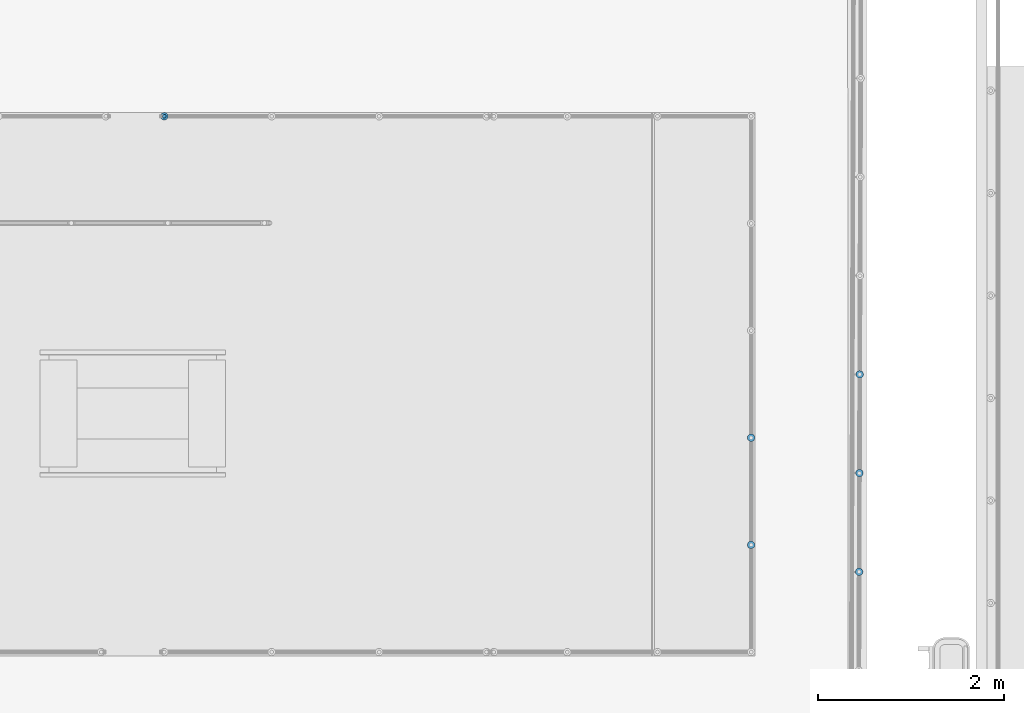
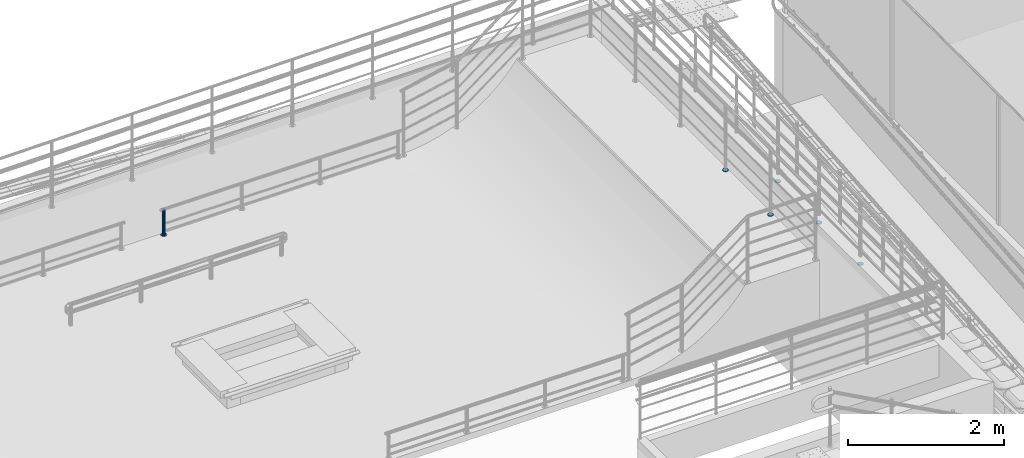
# One storey, part 114 of 237: 7 building element parts, 3 elements without a shape of their own.
"""IFC2X3 building model written with IfcOpenShell, lengths in millimetres."""

from ifc_helpers import new_model, entity, si_unit, converted_unit, derived_unit, money_unit, direction, frame, origin_with_axes, place, context, subcontext, project, spatial, faceted_brep, material, type_object, element, aggregate, save


model = new_model("IFC2X3")

# Units and contexts
model_context = context("Model", 3, precision=0.01, world=origin_with_axes(), true_north=direction((0.0, 1.0)))
body_context = subcontext(model_context, "Body", "Model", "MODEL_VIEW")
ifc_project = project(units=[si_unit("LENGTHUNIT", "METRE", prefix="MILLI"), si_unit("AREAUNIT", "SQUARE_METRE"), si_unit("VOLUMEUNIT", "CUBIC_METRE"), converted_unit("PLANEANGLEUNIT", "DEGREE", entity("IfcPlaneAngleMeasure", 0.0174532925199), si_unit("PLANEANGLEUNIT", "RADIAN"), dimensions=[0, 0, 0, 0, 0, 0, 0]), money_unit("USD"), converted_unit("TIMEUNIT", "Year", entity("IfcTimeMeasure", 31556926.0), si_unit("TIMEUNIT", "SECOND"), dimensions=[0, 0, 1, 0, 0, 0, 0]), si_unit("MASSUNIT", "GRAM", prefix="KILO"), si_unit("THERMODYNAMICTEMPERATUREUNIT", "DEGREE_CELSIUS"), si_unit("LUMINOUSINTENSITYUNIT", "LUMEN"), si_unit("ENERGYUNIT", "JOULE", prefix="MEGA"), derived_unit("THERMALCONDUCTANCEUNIT", [(si_unit("POWERUNIT", "WATT"), 1), (si_unit("LENGTHUNIT", "METRE"), -1), (si_unit("THERMODYNAMICTEMPERATUREUNIT", "KELVIN"), -1)]), derived_unit("SPECIFICHEATCAPACITYUNIT", [(si_unit("ENERGYUNIT", "JOULE"), 1), (si_unit("MASSUNIT", "GRAM", prefix="KILO"), -1), (si_unit("THERMODYNAMICTEMPERATUREUNIT", "KELVIN"), -1)]), derived_unit("MASSDENSITYUNIT", [(si_unit("MASSUNIT", "GRAM", prefix="KILO"), 1), (si_unit("VOLUMEUNIT", "CUBIC_METRE"), -1)])], contexts=[model_context])

# Site, building, storey
site_placement = place(None, origin_with_axes())
site = spatial("IfcSite", under=ifc_project, at=site_placement, Name="Local", CompositionType="ELEMENT")
building_placement = place(site_placement, origin_with_axes())
building = spatial("IfcBuilding", under=site, at=building_placement, Name="Construção", CompositionType="ELEMENT")
storey_placement = place(building_placement, origin_with_axes())
storey = spatial("IfcBuildingStorey", under=building, at=storey_placement, Name="Pavimento Térreo", CompositionType="ELEMENT", Elevation=0.0)

# Railing, building element parts
railing_type = type_object("IfcRailingType", Name="Tipo de Guarda-Corpo", PredefinedType="NOTDEFINED")
railing_1_placement = place(storey_placement, frame((70326.6870103, 28675.2458388, -1357.10819655), z_axis=(0.0, 0.0, 1.0), x_axis=(1.0, 0.0, 0.0)))
railing_1 = element("IfcRailing", 1, at=railing_1_placement, inside=storey, type_object=railing_type, Name="Guarda-Corpo - 004", PredefinedType="NOTDEFINED")
ifc_material_1 = material(Name="Alumínio")
building_element_part_1_placement = place(railing_1_placement, origin_with_axes())
building_element_part_1 = element("IfcBuildingElementPart", 2, at=building_element_part_1_placement, material=ifc_material_1, Name="Alumínio", context=body_context, shape_type="Brep", body=[
    faceted_brep([(-4740.85705578, 313.486317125, 0.0), (-4747.80477129, 312.899427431, 0.0), (-4747.80477129, 312.899427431, 5.0), (-4740.85705578, 313.486317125, 5.0), (-4733.91297935, 312.857832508, 0.0), (-4727.18353425, 311.033069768, 0.0), (-4720.87319127, 308.067473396, 0.0), (-4715.17368699, 304.051151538, 0.0), (-4710.25819795, 299.1061381, 0.0), (-4706.27607881, 293.382684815, 0.0), (-4703.34832424, 287.054695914, 0.0), (-4701.56389258, 280.314444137, 0.0), (-4700.97700289, 273.366728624, 0.0), (-4701.6054875, 266.422652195, 0.0), (-4703.43025024, 259.693207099, 0.0), (-4706.39584662, 253.382864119, 0.0), (-4710.41216847, 247.683359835, 0.0), (-4715.35718191, 242.767870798, 0.0), (-4721.0806352, 238.785751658, 0.0), (-4727.4086241, 235.857997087, 0.0), (-4734.14887587, 234.073565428, 0.0), (-4741.09659139, 233.486675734, 0.0), (-4748.04066782, 234.115160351, 0.0), (-4754.77011291, 235.939923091, 0.0), (-4761.08045589, 238.905519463, 0.0), (-4766.77996018, 242.921841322, 0.0), (-4771.69544921, 247.866854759, 0.0), (-4775.67756835, 253.590308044, 0.0), (-4778.60532292, 259.918296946, 0.0), (-4780.38975458, 266.658548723, 0.0), (-4780.97664428, 273.606264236, 0.0), (-4780.34815966, 280.550340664, 0.0), (-4778.52339692, 287.27978576, 0.0), (-4775.55780055, 293.59012874, 0.0), (-4771.54147869, 299.289633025, 0.0), (-4766.59646525, 304.205122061, 0.0), (-4760.87301197, 308.187241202, 0.0), (-4754.54502307, 311.114995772, 0.0), (-4754.54502307, 311.114995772, 5.0), (-4760.87301197, 308.187241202, 5.0), (-4766.59646525, 304.205122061, 5.0), (-4771.54147869, 299.289633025, 5.0), (-4775.55780055, 293.59012874, 5.0), (-4778.52339692, 287.27978576, 5.0), (-4780.34815966, 280.550340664, 5.0), (-4780.97664428, 273.606264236, 5.0), (-4780.38975458, 266.658548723, 5.0), (-4778.60532292, 259.918296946, 5.0), (-4775.67756835, 253.590308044, 5.0), (-4771.69544921, 247.866854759, 5.0), (-4766.77996018, 242.921841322, 5.0), (-4761.08045589, 238.905519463, 5.0), (-4754.77011291, 235.939923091, 5.0), (-4748.04066782, 234.115160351, 5.0), (-4741.09659139, 233.486675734, 5.0), (-4734.14887587, 234.073565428, 5.0), (-4727.4086241, 235.857997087, 5.0), (-4721.0806352, 238.785751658, 5.0), (-4715.35718191, 242.767870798, 5.0), (-4710.41216847, 247.683359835, 5.0), (-4706.39584662, 253.382864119, 5.0), (-4703.43025024, 259.693207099, 5.0), (-4701.6054875, 266.422652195, 5.0), (-4700.97700289, 273.366728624, 5.0), (-4701.56389258, 280.314444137, 5.0), (-4703.34832424, 287.054695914, 5.0), (-4706.27607881, 293.382684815, 5.0), (-4710.25819795, 299.1061381, 5.0), (-4715.17368699, 304.051151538, 5.0), (-4720.87319127, 308.067473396, 5.0), (-4727.18353425, 311.033069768, 5.0), (-4733.91297935, 312.857832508, 5.0)], [[[0, 1, 2, 3]], [[0, 4, 5, 6, 7, 8, 9, 10, 11, 12, 13, 14, 15, 16, 17, 18, 19, 20, 21, 22, 23, 24, 25, 26, 27, 28, 29, 30, 31, 32, 33, 34, 35, 36, 37, 1]], [[1, 37, 38, 2]], [[3, 2, 38, 39, 40, 41, 42, 43, 44, 45, 46, 47, 48, 49, 50, 51, 52, 53, 54, 55, 56, 57, 58, 59, 60, 61, 62, 63, 64, 65, 66, 67, 68, 69, 70, 71]], [[4, 0, 3, 71]], [[5, 4, 71, 70]], [[6, 5, 70, 69]], [[7, 6, 69, 68]], [[8, 7, 68, 67]], [[9, 8, 67, 66]], [[10, 9, 66, 65]], [[11, 10, 65, 64]], [[12, 11, 64, 63]], [[13, 12, 63, 62]], [[14, 13, 62, 61]], [[15, 14, 61, 60]], [[16, 15, 60, 59]], [[17, 16, 59, 58]], [[18, 17, 58, 57]], [[19, 18, 57, 56]], [[20, 19, 56, 55]], [[21, 20, 55, 54]], [[22, 21, 54, 53]], [[23, 22, 53, 52]], [[24, 23, 52, 51]], [[25, 24, 51, 50]], [[26, 25, 50, 49]], [[27, 26, 49, 48]], [[28, 27, 48, 47]], [[29, 28, 47, 46]], [[30, 29, 46, 45]], [[31, 30, 45, 44]], [[32, 31, 44, 43]], [[33, 32, 43, 42]], [[34, 33, 42, 41]], [[35, 34, 41, 40]], [[36, 35, 40, 39]], [[37, 36, 39, 38]]]),
])
building_element_part_2_placement = place(railing_1_placement, origin_with_axes())
building_element_part_2 = element("IfcBuildingElementPart", 3, at=building_element_part_2_placement, material=ifc_material_1, Name="Alumínio", context=body_context, shape_type="Brep", body=[
    faceted_brep([(-4737.67395442, 1376.57236701, 0.0), (-4744.62166993, 1375.98547732, 0.0), (-4744.62166993, 1375.98547732, 5.0), (-4737.67395442, 1376.57236701, 5.0), (-4730.72987799, 1375.9438824, 0.0), (-4724.00043289, 1374.11911966, 0.0), (-4717.69008991, 1371.15352328, 0.0), (-4711.99058563, 1367.13720143, 0.0), (-4707.07509659, 1362.19218799, 0.0), (-4703.09297745, 1356.4687347, 0.0), (-4700.16522288, 1350.1407458, 0.0), (-4698.38079122, 1343.40049402, 0.0), (-4697.79390153, 1336.45277851, 0.0), (-4698.42238614, 1329.50870208, 0.0), (-4700.24714888, 1322.77925699, 0.0), (-4703.21274526, 1316.46891401, 0.0), (-4707.22906711, 1310.76940972, 0.0), (-4712.17408055, 1305.85392069, 0.0), (-4717.89753384, 1301.87180155, 0.0), (-4724.22552274, 1298.94404697, 0.0), (-4730.96577451, 1297.15961532, 0.0), (-4737.91349003, 1296.57272562, 0.0), (-4744.85756646, 1297.20121024, 0.0), (-4751.58701155, 1299.02597298, 0.0), (-4757.89735453, 1301.99156935, 0.0), (-4763.59685882, 1306.00789121, 0.0), (-4768.51234785, 1310.95290465, 0.0), (-4772.49446699, 1316.67635793, 0.0), (-4775.42222156, 1323.00434683, 0.0), (-4777.20665322, 1329.74459861, 0.0), (-4777.79354292, 1336.69231412, 0.0), (-4777.1650583, 1343.63639055, 0.0), (-4775.34029556, 1350.36583565, 0.0), (-4772.37469919, 1356.67617863, 0.0), (-4768.35837733, 1362.37568291, 0.0), (-4763.41336389, 1367.29117195, 0.0), (-4757.68991061, 1371.27329109, 0.0), (-4751.36192171, 1374.20104566, 0.0), (-4751.36192171, 1374.20104566, 5.0), (-4757.68991061, 1371.27329109, 5.0), (-4763.41336389, 1367.29117195, 5.0), (-4768.35837733, 1362.37568291, 5.0), (-4772.37469919, 1356.67617863, 5.0), (-4775.34029556, 1350.36583565, 5.0), (-4777.1650583, 1343.63639055, 5.0), (-4777.79354292, 1336.69231412, 5.0), (-4777.20665322, 1329.74459861, 5.0), (-4775.42222156, 1323.00434683, 5.0), (-4772.49446699, 1316.67635793, 5.0), (-4768.51234785, 1310.95290465, 5.0), (-4763.59685882, 1306.00789121, 5.0), (-4757.89735453, 1301.99156935, 5.0), (-4751.58701155, 1299.02597298, 5.0), (-4744.85756646, 1297.20121024, 5.0), (-4737.91349003, 1296.57272562, 5.0), (-4730.96577451, 1297.15961532, 5.0), (-4724.22552274, 1298.94404697, 5.0), (-4717.89753384, 1301.87180155, 5.0), (-4712.17408055, 1305.85392069, 5.0), (-4707.22906711, 1310.76940972, 5.0), (-4703.21274526, 1316.46891401, 5.0), (-4700.24714888, 1322.77925699, 5.0), (-4698.42238614, 1329.50870208, 5.0), (-4697.79390153, 1336.45277851, 5.0), (-4698.38079122, 1343.40049402, 5.0), (-4700.16522288, 1350.1407458, 5.0), (-4703.09297745, 1356.4687347, 5.0), (-4707.07509659, 1362.19218799, 5.0), (-4711.99058563, 1367.13720143, 5.0), (-4717.69008991, 1371.15352328, 5.0), (-4724.00043289, 1374.11911966, 5.0), (-4730.72987799, 1375.9438824, 5.0)], [[[0, 1, 2, 3]], [[0, 4, 5, 6, 7, 8, 9, 10, 11, 12, 13, 14, 15, 16, 17, 18, 19, 20, 21, 22, 23, 24, 25, 26, 27, 28, 29, 30, 31, 32, 33, 34, 35, 36, 37, 1]], [[1, 37, 38, 2]], [[3, 2, 38, 39, 40, 41, 42, 43, 44, 45, 46, 47, 48, 49, 50, 51, 52, 53, 54, 55, 56, 57, 58, 59, 60, 61, 62, 63, 64, 65, 66, 67, 68, 69, 70, 71]], [[4, 0, 3, 71]], [[5, 4, 71, 70]], [[6, 5, 70, 69]], [[7, 6, 69, 68]], [[8, 7, 68, 67]], [[9, 8, 67, 66]], [[10, 9, 66, 65]], [[11, 10, 65, 64]], [[12, 11, 64, 63]], [[13, 12, 63, 62]], [[14, 13, 62, 61]], [[15, 14, 61, 60]], [[16, 15, 60, 59]], [[17, 16, 59, 58]], [[18, 17, 58, 57]], [[19, 18, 57, 56]], [[20, 19, 56, 55]], [[21, 20, 55, 54]], [[22, 21, 54, 53]], [[23, 22, 53, 52]], [[24, 23, 52, 51]], [[25, 24, 51, 50]], [[26, 25, 50, 49]], [[27, 26, 49, 48]], [[28, 27, 48, 47]], [[29, 28, 47, 46]], [[30, 29, 46, 45]], [[31, 30, 45, 44]], [[32, 31, 44, 43]], [[33, 32, 43, 42]], [[34, 33, 42, 41]], [[35, 34, 41, 40]], [[36, 35, 40, 39]], [[37, 36, 39, 38]]]),
])
building_element_part_3_placement = place(railing_1_placement, origin_with_axes())
building_element_part_3 = element("IfcBuildingElementPart", 4, at=building_element_part_3_placement, material=ifc_material_1, Name="Alumínio", context=body_context, shape_type="Brep", body=[
    faceted_brep([(-4734.49085306, 2439.6584169, 0.0), (-4741.43856857, 2439.07152721, 0.0), (-4741.43856857, 2439.07152721, 5.0), (-4734.49085306, 2439.6584169, 5.0), (-4727.54677663, 2439.02993228, 0.0), (-4720.81733153, 2437.20516954, 0.0), (-4714.50698855, 2434.23957317, 0.0), (-4708.80748427, 2430.22325131, 0.0), (-4703.89199523, 2425.27823788, 0.0), (-4699.90987609, 2419.55478459, 0.0), (-4696.98212152, 2413.22679569, 0.0), (-4695.19768986, 2406.48654391, 0.0), (-4694.61080017, 2399.5388284, 0.0), (-4695.23928478, 2392.59475197, 0.0), (-4697.06404752, 2385.86530687, 0.0), (-4700.0296439, 2379.55496389, 0.0), (-4704.04596575, 2373.85545961, 0.0), (-4708.99097919, 2368.93997057, 0.0), (-4714.71443248, 2364.95785143, 0.0), (-4721.04242138, 2362.03009686, 0.0), (-4727.78267316, 2360.2456652, 0.0), (-4734.73038867, 2359.65877551, 0.0), (-4741.6744651, 2360.28726013, 0.0), (-4748.40391019, 2362.11202287, 0.0), (-4754.71425317, 2365.07761924, 0.0), (-4760.41375746, 2369.0939411, 0.0), (-4765.32924649, 2374.03895453, 0.0), (-4769.31136563, 2379.76240782, 0.0), (-4772.2391202, 2386.09039672, 0.0), (-4774.02355186, 2392.8306485, 0.0), (-4774.61044156, 2399.77836401, 0.0), (-4773.98195694, 2406.72244044, 0.0), (-4772.1571942, 2413.45188554, 0.0), (-4769.19159783, 2419.76222851, 0.0), (-4765.17527597, 2425.4617328, 0.0), (-4760.23026253, 2430.37722184, 0.0), (-4754.50680925, 2434.35934098, 0.0), (-4748.17882035, 2437.28709555, 0.0), (-4748.17882035, 2437.28709555, 5.0), (-4754.50680925, 2434.35934098, 5.0), (-4760.23026253, 2430.37722184, 5.0), (-4765.17527597, 2425.4617328, 5.0), (-4769.19159783, 2419.76222851, 5.0), (-4772.1571942, 2413.45188554, 5.0), (-4773.98195694, 2406.72244044, 5.0), (-4774.61044156, 2399.77836401, 5.0), (-4774.02355186, 2392.8306485, 5.0), (-4772.2391202, 2386.09039672, 5.0), (-4769.31136563, 2379.76240782, 5.0), (-4765.32924649, 2374.03895453, 5.0), (-4760.41375746, 2369.0939411, 5.0), (-4754.71425317, 2365.07761924, 5.0), (-4748.40391019, 2362.11202287, 5.0), (-4741.6744651, 2360.28726013, 5.0), (-4734.73038867, 2359.65877551, 5.0), (-4727.78267316, 2360.2456652, 5.0), (-4721.04242138, 2362.03009686, 5.0), (-4714.71443248, 2364.95785143, 5.0), (-4708.99097919, 2368.93997057, 5.0), (-4704.04596575, 2373.85545961, 5.0), (-4700.0296439, 2379.55496389, 5.0), (-4697.06404752, 2385.86530687, 5.0), (-4695.23928478, 2392.59475197, 5.0), (-4694.61080017, 2399.5388284, 5.0), (-4695.19768986, 2406.48654391, 5.0), (-4696.98212152, 2413.22679569, 5.0), (-4699.90987609, 2419.55478459, 5.0), (-4703.89199523, 2425.27823788, 5.0), (-4708.80748427, 2430.22325131, 5.0), (-4714.50698855, 2434.23957317, 5.0), (-4720.81733153, 2437.20516954, 5.0), (-4727.54677663, 2439.02993228, 5.0)], [[[0, 1, 2, 3]], [[0, 4, 5, 6, 7, 8, 9, 10, 11, 12, 13, 14, 15, 16, 17, 18, 19, 20, 21, 22, 23, 24, 25, 26, 27, 28, 29, 30, 31, 32, 33, 34, 35, 36, 37, 1]], [[1, 37, 38, 2]], [[3, 2, 38, 39, 40, 41, 42, 43, 44, 45, 46, 47, 48, 49, 50, 51, 52, 53, 54, 55, 56, 57, 58, 59, 60, 61, 62, 63, 64, 65, 66, 67, 68, 69, 70, 71]], [[4, 0, 3, 71]], [[5, 4, 71, 70]], [[6, 5, 70, 69]], [[7, 6, 69, 68]], [[8, 7, 68, 67]], [[9, 8, 67, 66]], [[10, 9, 66, 65]], [[11, 10, 65, 64]], [[12, 11, 64, 63]], [[13, 12, 63, 62]], [[14, 13, 62, 61]], [[15, 14, 61, 60]], [[16, 15, 60, 59]], [[17, 16, 59, 58]], [[18, 17, 58, 57]], [[19, 18, 57, 56]], [[20, 19, 56, 55]], [[21, 20, 55, 54]], [[22, 21, 54, 53]], [[23, 22, 53, 52]], [[24, 23, 52, 51]], [[25, 24, 51, 50]], [[26, 25, 50, 49]], [[27, 26, 49, 48]], [[28, 27, 48, 47]], [[29, 28, 47, 46]], [[30, 29, 46, 45]], [[31, 30, 45, 44]], [[32, 31, 44, 43]], [[33, 32, 43, 42]], [[34, 33, 42, 41]], [[35, 34, 41, 40]], [[36, 35, 40, 39]], [[37, 36, 39, 38]]]),
])
aggregate(railing_1, [building_element_part_1, building_element_part_2, building_element_part_3])

railing_2_placement = place(storey_placement, frame((61612.4440926, 28006.4497128, -1265.99547451), z_axis=(0.0, 0.0, 1.0), x_axis=(-1.0, 0.0, 0.0)))
railing_2 = element("IfcRailing", 5, at=railing_2_placement, inside=storey, type_object=railing_type, Name="Guarda-Corpo - 001", PredefinedType="NOTDEFINED")
building_element_part_4_placement = place(railing_2_placement, origin_with_axes())
building_element_part_4 = element("IfcBuildingElementPart", 6, at=building_element_part_4_placement, material=ifc_material_1, Name="Alumínio", context=body_context, shape_type="Brep", body=[
    faceted_brep([(-2810.00015192, -1272.48511285, 908.887277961), (-2803.05422483, -1271.87742274, 908.887277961), (-2803.05422483, -1271.87742274, 913.887277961), (-2810.00015192, -1272.48511285, 913.887277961), (-2816.94607904, -1271.8774232, 908.887277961), (-2823.68095773, -1270.07281813, 908.887277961), (-2830.00015209, -1267.12612966, 908.887277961), (-2835.71165661, -1263.12689142, 908.887277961), (-2840.64193011, -1258.19661825, 908.887277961), (-2844.64116873, -1252.48511399, 908.887277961), (-2847.58785762, -1246.16591982, 908.887277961), (-2849.39246313, -1239.43104126, 908.887277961), (-2850.00015323, -1232.48511417, 908.887277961), (-2849.39246358, -1225.53918704, 908.887277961), (-2847.58785852, -1218.80430836, 908.887277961), (-2844.64117004, -1212.48511399, 908.887277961), (-2840.64193181, -1206.77360947, 908.887277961), (-2835.71165863, -1201.84333597, 908.887277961), (-2830.00015437, -1197.84409736, 908.887277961), (-2823.6809602, -1194.89740847, 908.887277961), (-2816.94608164, -1193.09280296, 908.887277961), (-2810.00015455, -1192.48511285, 908.887277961), (-2803.05422742, -1193.0928025, 908.887277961), (-2796.31934874, -1194.89740757, 908.887277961), (-2790.00015437, -1197.84409604, 908.887277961), (-2784.28864986, -1201.84333428, 908.887277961), (-2779.35837636, -1206.77360746, 908.887277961), (-2775.35913774, -1212.48511171, 908.887277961), (-2772.41244885, -1218.80430588, 908.887277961), (-2770.60784334, -1225.53918445, 908.887277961), (-2770.00015323, -1232.48511154, 908.887277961), (-2770.60784289, -1239.43103866, 908.887277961), (-2772.41244795, -1246.16591735, 908.887277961), (-2775.35913642, -1252.48511171, 908.887277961), (-2779.35837466, -1258.19661623, 908.887277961), (-2784.28864784, -1263.12688973, 908.887277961), (-2790.00015209, -1267.12612835, 908.887277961), (-2796.31934626, -1270.07281723, 908.887277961), (-2796.31934626, -1270.07281723, 913.887277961), (-2790.00015209, -1267.12612835, 913.887277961), (-2784.28864784, -1263.12688973, 913.887277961), (-2779.35837466, -1258.19661623, 913.887277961), (-2775.35913642, -1252.48511171, 913.887277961), (-2772.41244795, -1246.16591735, 913.887277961), (-2770.60784289, -1239.43103866, 913.887277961), (-2770.00015323, -1232.48511154, 913.887277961), (-2770.60784334, -1225.53918445, 913.887277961), (-2772.41244885, -1218.80430588, 913.887277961), (-2775.35913774, -1212.48511171, 913.887277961), (-2779.35837636, -1206.77360746, 913.887277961), (-2784.28864986, -1201.84333428, 913.887277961), (-2790.00015437, -1197.84409604, 913.887277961), (-2796.31934874, -1194.89740757, 913.887277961), (-2803.05422742, -1193.0928025, 913.887277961), (-2810.00015455, -1192.48511285, 913.887277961), (-2816.94608164, -1193.09280296, 913.887277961), (-2823.6809602, -1194.89740847, 913.887277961), (-2830.00015437, -1197.84409736, 913.887277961), (-2835.71165863, -1201.84333597, 913.887277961), (-2840.64193181, -1206.77360947, 913.887277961), (-2844.64117004, -1212.48511399, 913.887277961), (-2847.58785852, -1218.80430836, 913.887277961), (-2849.39246358, -1225.53918704, 913.887277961), (-2850.00015323, -1232.48511417, 913.887277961), (-2849.39246313, -1239.43104126, 913.887277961), (-2847.58785762, -1246.16591982, 913.887277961), (-2844.64116873, -1252.48511399, 913.887277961), (-2840.64193011, -1258.19661825, 913.887277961), (-2835.71165661, -1263.12689142, 913.887277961), (-2830.00015209, -1267.12612966, 913.887277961), (-2823.68095773, -1270.07281813, 913.887277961), (-2816.94607904, -1271.8774232, 913.887277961)], [[[0, 1, 2, 3]], [[0, 4, 5, 6, 7, 8, 9, 10, 11, 12, 13, 14, 15, 16, 17, 18, 19, 20, 21, 22, 23, 24, 25, 26, 27, 28, 29, 30, 31, 32, 33, 34, 35, 36, 37, 1]], [[1, 37, 38, 2]], [[3, 2, 38, 39, 40, 41, 42, 43, 44, 45, 46, 47, 48, 49, 50, 51, 52, 53, 54, 55, 56, 57, 58, 59, 60, 61, 62, 63, 64, 65, 66, 67, 68, 69, 70, 71]], [[4, 0, 3, 71]], [[5, 4, 71, 70]], [[6, 5, 70, 69]], [[7, 6, 69, 68]], [[8, 7, 68, 67]], [[9, 8, 67, 66]], [[10, 9, 66, 65]], [[11, 10, 65, 64]], [[12, 11, 64, 63]], [[13, 12, 63, 62]], [[14, 13, 62, 61]], [[15, 14, 61, 60]], [[16, 15, 60, 59]], [[17, 16, 59, 58]], [[18, 17, 58, 57]], [[19, 18, 57, 56]], [[20, 19, 56, 55]], [[21, 20, 55, 54]], [[22, 21, 54, 53]], [[23, 22, 53, 52]], [[24, 23, 52, 51]], [[25, 24, 51, 50]], [[26, 25, 50, 49]], [[27, 26, 49, 48]], [[28, 27, 48, 47]], [[29, 28, 47, 46]], [[30, 29, 46, 45]], [[31, 30, 45, 44]], [[32, 31, 44, 43]], [[33, 32, 43, 42]], [[34, 33, 42, 41]], [[35, 34, 41, 40]], [[36, 35, 40, 39]], [[37, 36, 39, 38]]]),
])
building_element_part_5_placement = place(railing_2_placement, origin_with_axes())
building_element_part_5 = element("IfcBuildingElementPart", 7, at=building_element_part_5_placement, material=ifc_material_1, Name="Alumínio", context=body_context, shape_type="Brep", body=[
    faceted_brep([(-2810.00011394, -2426.48368458, 908.887277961), (-2803.05418685, -2425.87599447, 908.887277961), (-2803.05418685, -2425.87599447, 913.887277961), (-2810.00011394, -2426.48368458, 913.887277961), (-2816.94604107, -2425.87599493, 908.887277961), (-2823.68091975, -2424.07138986, 908.887277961), (-2830.00011411, -2421.12470139, 908.887277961), (-2835.71161863, -2417.12546315, 908.887277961), (-2840.64189213, -2412.19518998, 908.887277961), (-2844.64113075, -2406.48368572, 908.887277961), (-2847.58781964, -2400.16449155, 908.887277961), (-2849.39242515, -2393.42961298, 908.887277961), (-2850.00011525, -2386.4836859, 908.887277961), (-2849.3924256, -2379.53775877, 908.887277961), (-2847.58782054, -2372.80288009, 908.887277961), (-2844.64113206, -2366.48368572, 908.887277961), (-2840.64189383, -2360.7721812, 908.887277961), (-2835.71162065, -2355.8419077, 908.887277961), (-2830.0001164, -2351.84266909, 908.887277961), (-2823.68092223, -2348.8959802, 908.887277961), (-2816.94604366, -2347.09137469, 908.887277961), (-2810.00011657, -2346.48368458, 908.887277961), (-2803.05418944, -2347.09137423, 908.887277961), (-2796.31931076, -2348.8959793, 908.887277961), (-2790.0001164, -2351.84266777, 908.887277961), (-2784.28861188, -2355.84190601, 908.887277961), (-2779.35833838, -2360.77217919, 908.887277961), (-2775.35909976, -2366.48368344, 908.887277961), (-2772.41241087, -2372.80287761, 908.887277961), (-2770.60780536, -2379.53775618, 908.887277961), (-2770.00011525, -2386.48368327, 908.887277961), (-2770.60780491, -2393.42961039, 908.887277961), (-2772.41240997, -2400.16448908, 908.887277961), (-2775.35909845, -2406.48368344, 908.887277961), (-2779.35833668, -2412.19518796, 908.887277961), (-2784.28860986, -2417.12546146, 908.887277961), (-2790.00011411, -2421.12470007, 908.887277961), (-2796.31930828, -2424.07138896, 908.887277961), (-2796.31930828, -2424.07138896, 913.887277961), (-2790.00011411, -2421.12470007, 913.887277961), (-2784.28860986, -2417.12546146, 913.887277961), (-2779.35833668, -2412.19518796, 913.887277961), (-2775.35909845, -2406.48368344, 913.887277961), (-2772.41240997, -2400.16448908, 913.887277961), (-2770.60780491, -2393.42961039, 913.887277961), (-2770.00011525, -2386.48368327, 913.887277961), (-2770.60780536, -2379.53775618, 913.887277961), (-2772.41241087, -2372.80287761, 913.887277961), (-2775.35909976, -2366.48368344, 913.887277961), (-2779.35833838, -2360.77217919, 913.887277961), (-2784.28861188, -2355.84190601, 913.887277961), (-2790.0001164, -2351.84266777, 913.887277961), (-2796.31931076, -2348.8959793, 913.887277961), (-2803.05418944, -2347.09137423, 913.887277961), (-2810.00011657, -2346.48368458, 913.887277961), (-2816.94604366, -2347.09137469, 913.887277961), (-2823.68092223, -2348.8959802, 913.887277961), (-2830.0001164, -2351.84266909, 913.887277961), (-2835.71162065, -2355.8419077, 913.887277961), (-2840.64189383, -2360.7721812, 913.887277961), (-2844.64113206, -2366.48368572, 913.887277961), (-2847.58782054, -2372.80288009, 913.887277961), (-2849.3924256, -2379.53775877, 913.887277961), (-2850.00011525, -2386.4836859, 913.887277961), (-2849.39242515, -2393.42961298, 913.887277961), (-2847.58781964, -2400.16449155, 913.887277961), (-2844.64113075, -2406.48368572, 913.887277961), (-2840.64189213, -2412.19518998, 913.887277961), (-2835.71161863, -2417.12546315, 913.887277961), (-2830.00011411, -2421.12470139, 913.887277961), (-2823.68091975, -2424.07138986, 913.887277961), (-2816.94604107, -2425.87599493, 913.887277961)], [[[0, 1, 2, 3]], [[0, 4, 5, 6, 7, 8, 9, 10, 11, 12, 13, 14, 15, 16, 17, 18, 19, 20, 21, 22, 23, 24, 25, 26, 27, 28, 29, 30, 31, 32, 33, 34, 35, 36, 37, 1]], [[1, 37, 38, 2]], [[3, 2, 38, 39, 40, 41, 42, 43, 44, 45, 46, 47, 48, 49, 50, 51, 52, 53, 54, 55, 56, 57, 58, 59, 60, 61, 62, 63, 64, 65, 66, 67, 68, 69, 70, 71]], [[4, 0, 3, 71]], [[5, 4, 71, 70]], [[6, 5, 70, 69]], [[7, 6, 69, 68]], [[8, 7, 68, 67]], [[9, 8, 67, 66]], [[10, 9, 66, 65]], [[11, 10, 65, 64]], [[12, 11, 64, 63]], [[13, 12, 63, 62]], [[14, 13, 62, 61]], [[15, 14, 61, 60]], [[16, 15, 60, 59]], [[17, 16, 59, 58]], [[18, 17, 58, 57]], [[19, 18, 57, 56]], [[20, 19, 56, 55]], [[21, 20, 55, 54]], [[22, 21, 54, 53]], [[23, 22, 53, 52]], [[24, 23, 52, 51]], [[25, 24, 51, 50]], [[26, 25, 50, 49]], [[27, 26, 49, 48]], [[28, 27, 48, 47]], [[29, 28, 47, 46]], [[30, 29, 46, 45]], [[31, 30, 45, 44]], [[32, 31, 44, 43]], [[33, 32, 43, 42]], [[34, 33, 42, 41]], [[35, 34, 41, 40]], [[36, 35, 40, 39]], [[37, 36, 39, 38]]]),
])
aggregate(railing_2, [building_element_part_4, building_element_part_5])

railing_3_placement = place(storey_placement, frame((61612.4440926, 33894.7133519, -1887.10818411), z_axis=(0.0, 0.0, 1.0), x_axis=(-1.0, 0.0, 0.0)))
railing_3 = element("IfcRailing", 8, at=railing_3_placement, inside=storey, type_object=railing_type, Name="Guarda-Corpo - 002", PredefinedType="NOTDEFINED")
ifc_material_2 = material(Name="Aço - Inoxidável")
building_element_part_6_placement = place(railing_3_placement, origin_with_axes())
building_element_part_6 = element("IfcBuildingElementPart", 9, at=building_element_part_6_placement, material=ifc_material_2, Name="Aço - Inoxidável", context=body_context, shape_type="Brep", body=[
    faceted_brep([(3506.52703645, 20.3038449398, 635.0), (3510.0, 20.0, 635.0), (3510.0, 20.0, 1030.0), (3506.52703645, 20.3038449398, 1030.0), (3513.47296355, 20.3038449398, 635.0), (3503.15959713, 21.2061475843, 635.0), (3500.0, 22.6794919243, 635.0), (3497.14424781, 24.6791111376, 635.0), (3494.67911114, 27.1442478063, 635.0), (3492.67949192, 30.0, 635.0), (3491.20614758, 33.1595971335, 635.0), (3490.30384494, 36.5270364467, 635.0), (3490.0, 40.0, 635.0), (3490.30384494, 43.4729635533, 635.0), (3491.20614758, 46.8404028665, 635.0), (3492.67949192, 50.0, 635.0), (3494.67911114, 52.8557521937, 635.0), (3497.14424781, 55.3208888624, 635.0), (3500.0, 57.3205080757, 635.0), (3503.15959713, 58.7938524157, 635.0), (3506.52703645, 59.6961550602, 635.0), (3510.0, 60.0, 635.0), (3513.47296355, 59.6961550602, 635.0), (3516.84040287, 58.7938524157, 635.0), (3520.0, 57.3205080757, 635.0), (3522.85575219, 55.3208888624, 635.0), (3525.32088886, 52.8557521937, 635.0), (3527.32050808, 50.0, 635.0), (3528.79385242, 46.8404028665, 635.0), (3529.69615506, 43.4729635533, 635.0), (3530.0, 40.0, 635.0), (3529.69615506, 36.5270364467, 635.0), (3528.79385242, 33.1595971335, 635.0), (3527.32050808, 30.0, 635.0), (3525.32088886, 27.1442478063, 635.0), (3522.85575219, 24.6791111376, 635.0), (3520.0, 22.6794919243, 635.0), (3516.84040287, 21.2061475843, 635.0), (3513.47296355, 20.3038449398, 1030.0), (3490.30384494, 43.4729635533, 1030.0), (3490.0, 40.0, 1030.0), (3490.30384494, 36.5270364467, 1030.0), (3491.20614758, 33.1595971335, 1030.0), (3492.67949192, 30.0, 1030.0), (3494.67911114, 27.1442478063, 1030.0), (3497.14424781, 24.6791111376, 1030.0), (3500.0, 22.6794919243, 1030.0), (3503.15959713, 21.2061475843, 1030.0), (3516.84040287, 21.2061475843, 1030.0), (3520.0, 22.6794919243, 1030.0), (3522.85575219, 24.6791111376, 1030.0), (3525.32088886, 27.1442478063, 1030.0), (3527.32050808, 30.0, 1030.0), (3528.79385242, 33.1595971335, 1030.0), (3529.69615506, 36.5270364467, 1030.0), (3530.0, 40.0, 1030.0), (3529.69615506, 43.4729635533, 1030.0), (3528.79385242, 46.8404028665, 1030.0), (3527.32050808, 50.0, 1030.0), (3525.32088886, 52.8557521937, 1030.0), (3522.85575219, 55.3208888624, 1030.0), (3520.0, 57.3205080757, 1030.0), (3516.84040287, 58.7938524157, 1030.0), (3513.47296355, 59.6961550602, 1030.0), (3510.0, 60.0, 1030.0), (3506.52703645, 59.6961550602, 1030.0), (3503.15959713, 58.7938524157, 1030.0), (3500.0, 57.3205080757, 1030.0), (3497.14424781, 55.3208888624, 1030.0), (3494.67911114, 52.8557521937, 1030.0), (3492.67949192, 50.0, 1030.0), (3491.20614758, 46.8404028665, 1030.0)], [[[0, 1, 2, 3]], [[4, 1, 0, 5, 6, 7, 8, 9, 10, 11, 12, 13, 14, 15, 16, 17, 18, 19, 20, 21, 22, 23, 24, 25, 26, 27, 28, 29, 30, 31, 32, 33, 34, 35, 36, 37]], [[1, 4, 38, 2]], [[39, 40, 41, 42, 43, 44, 45, 46, 47, 3, 2, 38, 48, 49, 50, 51, 52, 53, 54, 55, 56, 57, 58, 59, 60, 61, 62, 63, 64, 65, 66, 67, 68, 69, 70, 71]], [[5, 0, 3, 47]], [[6, 5, 47, 46]], [[7, 6, 46, 45]], [[8, 7, 45, 44]], [[9, 8, 44, 43]], [[10, 9, 43, 42]], [[11, 10, 42, 41]], [[12, 11, 41, 40]], [[13, 12, 40, 39]], [[14, 13, 39, 71]], [[15, 14, 71, 70]], [[16, 15, 70, 69]], [[17, 16, 69, 68]], [[18, 17, 68, 67]], [[19, 18, 67, 66]], [[20, 19, 66, 65]], [[21, 20, 65, 64]], [[22, 21, 64, 63]], [[23, 22, 63, 62]], [[24, 23, 62, 61]], [[25, 24, 61, 60]], [[26, 25, 60, 59]], [[27, 26, 59, 58]], [[28, 27, 58, 57]], [[29, 28, 57, 56]], [[30, 29, 56, 55]], [[31, 30, 55, 54]], [[32, 31, 54, 53]], [[33, 32, 53, 52]], [[34, 33, 52, 51]], [[35, 34, 51, 50]], [[36, 35, 50, 49]], [[37, 36, 49, 48]], [[4, 37, 48, 38]]]),
])
building_element_part_7_placement = place(railing_3_placement, origin_with_axes())
building_element_part_7 = element("IfcBuildingElementPart", 10, at=building_element_part_7_placement, material=ifc_material_1, Name="Alumínio", context=body_context, shape_type="Brep", body=[
    faceted_brep([(3550.0, 40.0, 630.0), (3549.39231012, 46.9459271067, 630.0), (3549.39231012, 46.9459271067, 635.0), (3550.0, 40.0, 635.0), (3549.39231012, 33.0540728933, 630.0), (3547.58770483, 26.319194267, 630.0), (3544.64101615, 20.0, 630.0), (3540.64177772, 14.2884956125, 630.0), (3535.71150439, 9.35822227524, 630.0), (3530.0, 5.35898384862, 630.0), (3523.68080573, 2.41229516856, 630.0), (3516.94592711, 0.607689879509, 630.0), (3510.0, 0.0, 630.0), (3503.05407289, 0.607689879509, 630.0), (3496.31919427, 2.41229516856, 630.0), (3490.0, 5.35898384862, 630.0), (3484.28849561, 9.35822227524, 630.0), (3479.35822228, 14.2884956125, 630.0), (3475.35898385, 20.0, 630.0), (3472.41229517, 26.319194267, 630.0), (3470.60768988, 33.0540728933, 630.0), (3470.0, 40.0, 630.0), (3470.60768988, 46.9459271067, 630.0), (3472.41229517, 53.680805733, 630.0), (3475.35898385, 60.0, 630.0), (3479.35822228, 65.7115043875, 630.0), (3484.28849561, 70.6417777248, 630.0), (3490.0, 74.6410161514, 630.0), (3496.31919427, 77.5877048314, 630.0), (3503.05407289, 79.3923101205, 630.0), (3510.0, 80.0, 630.0), (3516.94592711, 79.3923101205, 630.0), (3523.68080573, 77.5877048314, 630.0), (3530.0, 74.6410161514, 630.0), (3535.71150439, 70.6417777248, 630.0), (3540.64177772, 65.7115043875, 630.0), (3544.64101615, 60.0, 630.0), (3547.58770483, 53.680805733, 630.0), (3547.58770483, 53.680805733, 635.0), (3544.64101615, 60.0, 635.0), (3540.64177772, 65.7115043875, 635.0), (3535.71150439, 70.6417777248, 635.0), (3530.0, 74.6410161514, 635.0), (3523.68080573, 77.5877048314, 635.0), (3516.94592711, 79.3923101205, 635.0), (3510.0, 80.0, 635.0), (3503.05407289, 79.3923101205, 635.0), (3496.31919427, 77.5877048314, 635.0), (3490.0, 74.6410161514, 635.0), (3484.28849561, 70.6417777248, 635.0), (3479.35822228, 65.7115043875, 635.0), (3475.35898385, 60.0, 635.0), (3472.41229517, 53.680805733, 635.0), (3470.60768988, 46.9459271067, 635.0), (3470.0, 40.0, 635.0), (3470.60768988, 33.0540728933, 635.0), (3472.41229517, 26.319194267, 635.0), (3475.35898385, 20.0, 635.0), (3479.35822228, 14.2884956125, 635.0), (3484.28849561, 9.35822227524, 635.0), (3490.0, 5.35898384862, 635.0), (3496.31919427, 2.41229516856, 635.0), (3503.05407289, 0.607689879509, 635.0), (3510.0, 0.0, 635.0), (3516.94592711, 0.607689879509, 635.0), (3523.68080573, 2.41229516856, 635.0), (3530.0, 5.35898384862, 635.0), (3535.71150439, 9.35822227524, 635.0), (3540.64177772, 14.2884956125, 635.0), (3544.64101615, 20.0, 635.0), (3547.58770483, 26.319194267, 635.0), (3549.39231012, 33.0540728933, 635.0)], [[[0, 1, 2, 3]], [[0, 4, 5, 6, 7, 8, 9, 10, 11, 12, 13, 14, 15, 16, 17, 18, 19, 20, 21, 22, 23, 24, 25, 26, 27, 28, 29, 30, 31, 32, 33, 34, 35, 36, 37, 1]], [[1, 37, 38, 2]], [[3, 2, 38, 39, 40, 41, 42, 43, 44, 45, 46, 47, 48, 49, 50, 51, 52, 53, 54, 55, 56, 57, 58, 59, 60, 61, 62, 63, 64, 65, 66, 67, 68, 69, 70, 71]], [[4, 0, 3, 71]], [[5, 4, 71, 70]], [[6, 5, 70, 69]], [[7, 6, 69, 68]], [[8, 7, 68, 67]], [[9, 8, 67, 66]], [[10, 9, 66, 65]], [[11, 10, 65, 64]], [[12, 11, 64, 63]], [[13, 12, 63, 62]], [[14, 13, 62, 61]], [[15, 14, 61, 60]], [[16, 15, 60, 59]], [[17, 16, 59, 58]], [[18, 17, 58, 57]], [[19, 18, 57, 56]], [[20, 19, 56, 55]], [[21, 20, 55, 54]], [[22, 21, 54, 53]], [[23, 22, 53, 52]], [[24, 23, 52, 51]], [[25, 24, 51, 50]], [[26, 25, 50, 49]], [[27, 26, 49, 48]], [[28, 27, 48, 47]], [[29, 28, 47, 46]], [[30, 29, 46, 45]], [[31, 30, 45, 44]], [[32, 31, 44, 43]], [[33, 32, 43, 42]], [[34, 33, 42, 41]], [[35, 34, 41, 40]], [[36, 35, 40, 39]], [[37, 36, 39, 38]]]),
])
aggregate(railing_3, [building_element_part_6, building_element_part_7])

save(model, "model.ifc")
